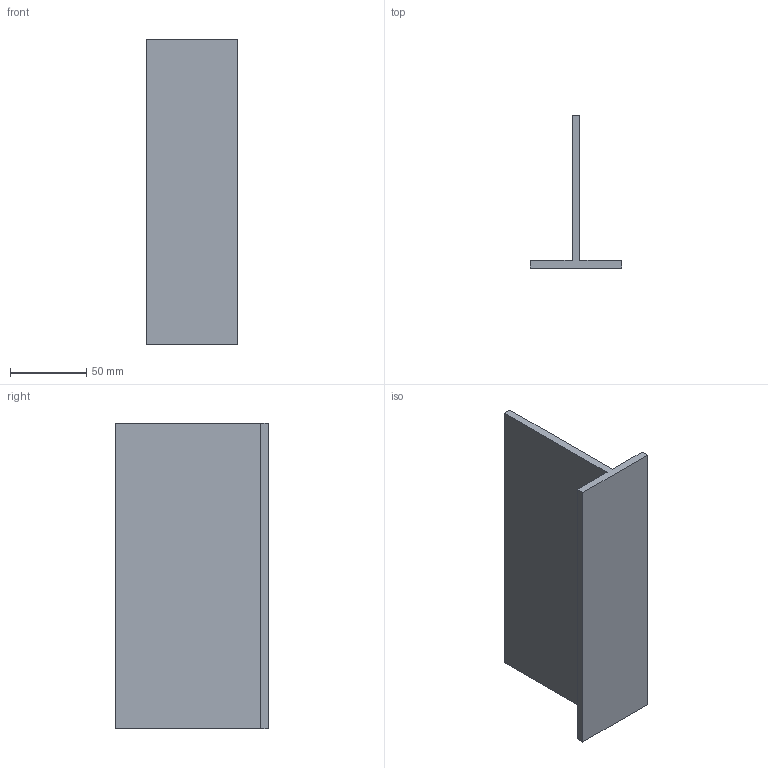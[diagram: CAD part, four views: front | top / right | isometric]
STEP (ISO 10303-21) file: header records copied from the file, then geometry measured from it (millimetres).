
FILE_DESCRIPTION (( 'STEP AP203' ), '1' );
FILE_NAME ('015.200.009.STEP', '2016-10-24T08:35:41', ( '' ), ( '' ), 'SwSTEP 2.0', 'SolidWorks 2016', '' );
FILE_SCHEMA (( 'CONFIG_CONTROL_DESIGN' ));
Length unit declared in the file: millimetre
Products named in the file (1): 015.200.009
Bounding box: 60 x 100 x 200 mm (x, y, z)
Volume: 155000 mm3; surface area: 65550 mm2
Topology: 1 solids, 1 shells, 10 faces, 24 edges, 16 vertices
Faces by surface type: plane 10
Entity records: 365 total; most frequent: CARTESIAN_POINT 51, ORIENTED_EDGE 48, DIRECTION 46, VECTOR 24, EDGE_CURVE 24, LINE 24, VERTEX_POINT 16, AXIS2_PLACEMENT_3D 11
